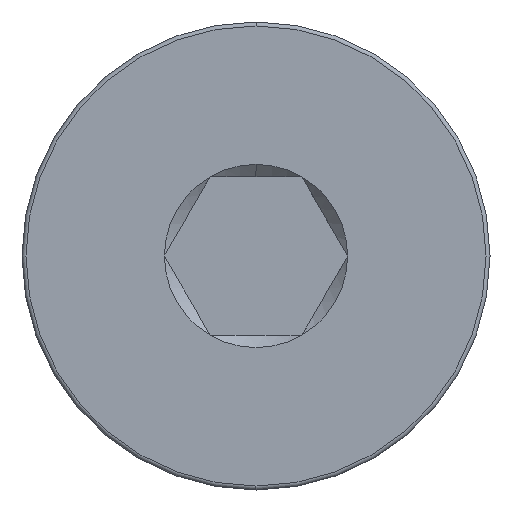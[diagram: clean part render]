
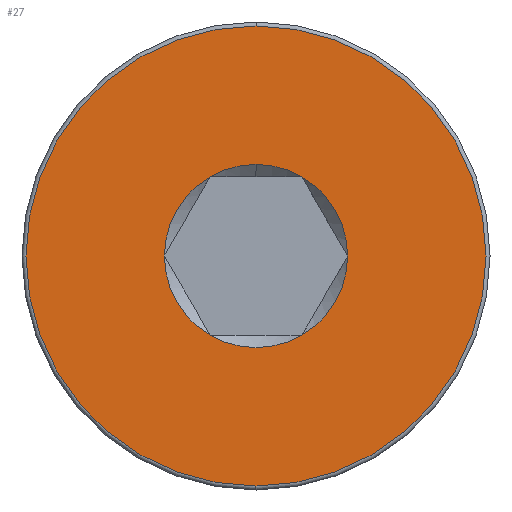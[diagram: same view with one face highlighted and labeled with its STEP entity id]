
A CAD part, left-side view. The second image highlights one B-rep face of the part: STEP entity #27.
In plain terms, the highlighted planar face has unit normal (-1, 0, 0).
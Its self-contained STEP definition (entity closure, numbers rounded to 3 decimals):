
#9 = CARTESIAN_POINT ( 'NONE',  ( 0., 0., 2.309 ) ) ;
#12 = CARTESIAN_POINT ( 'NONE',  ( 0., 0., 0. ) ) ;
#14 = EDGE_CURVE ( 'NONE', #258, #509, #249, .T. ) ;
#20 = CIRCLE ( 'NONE', #637, 5.8 ) ;
#27 = ADVANCED_FACE ( 'NONE', ( #351, #646 ), #84, .T. ) ;
#32 = CARTESIAN_POINT ( 'NONE',  ( 0., 0., 0. ) ) ;
#48 = AXIS2_PLACEMENT_3D ( 'NONE', #32, #583, #532 ) ;
#52 = EDGE_CURVE ( 'NONE', #487, #393, #610, .T. ) ;
#55 = DIRECTION ( 'NONE',  ( 0., 0., -1. ) ) ;
#64 = CARTESIAN_POINT ( 'NONE',  ( 0., -1.155, -2. ) ) ;
#71 = AXIS2_PLACEMENT_3D ( 'NONE', #787, #729, #102 ) ;
#73 = DIRECTION ( 'NONE',  ( 0., 0., -1. ) ) ;
#84 = PLANE ( 'NONE',  #274 ) ;
#85 = AXIS2_PLACEMENT_3D ( 'NONE', #528, #594, #478 ) ;
#102 = DIRECTION ( 'NONE',  ( 0., 0., -1. ) ) ;
#116 = ORIENTED_EDGE ( 'NONE', *, *, #158, .T. ) ;
#118 = ORIENTED_EDGE ( 'NONE', *, *, #336, .T. ) ;
#129 = DIRECTION ( 'NONE',  ( 0., 0., 1. ) ) ;
#142 = ORIENTED_EDGE ( 'NONE', *, *, #52, .T. ) ;
#157 = DIRECTION ( 'NONE',  ( 0., 0., 1. ) ) ;
#158 = EDGE_CURVE ( 'NONE', #371, #438, #199, .T. ) ;
#162 = AXIS2_PLACEMENT_3D ( 'NONE', #434, #428, #55 ) ;
#172 = DIRECTION ( 'NONE',  ( 1., 0., 0. ) ) ;
#179 = AXIS2_PLACEMENT_3D ( 'NONE', #452, #444, #687 ) ;
#199 = CIRCLE ( 'NONE', #162, 2.309 ) ;
#201 = CIRCLE ( 'NONE', #420, 2.309 ) ;
#215 = DIRECTION ( 'NONE',  ( -1., 0., 0. ) ) ;
#219 = DIRECTION ( 'NONE',  ( 0., 0., 1. ) ) ;
#249 = CIRCLE ( 'NONE', #85, 2.309 ) ;
#253 = ORIENTED_EDGE ( 'NONE', *, *, #512, .T. ) ;
#258 = VERTEX_POINT ( 'NONE', #64 ) ;
#266 = DIRECTION ( 'NONE',  ( -1., 0., 0. ) ) ;
#268 = CARTESIAN_POINT ( 'NONE',  ( 0., 0., 5.8 ) ) ;
#270 = VERTEX_POINT ( 'NONE', #268 ) ;
#274 = AXIS2_PLACEMENT_3D ( 'NONE', #717, #215, #157 ) ;
#329 = VERTEX_POINT ( 'NONE', #9 ) ;
#336 = EDGE_CURVE ( 'NONE', #438, #329, #564, .T. ) ;
#351 = FACE_OUTER_BOUND ( 'NONE', #753, .T. ) ;
#352 = CARTESIAN_POINT ( 'NONE',  ( 0., 0., 0. ) ) ;
#357 = DIRECTION ( 'NONE',  ( -1., 0., 0. ) ) ;
#368 = CIRCLE ( 'NONE', #384, 5.8 ) ;
#371 = VERTEX_POINT ( 'NONE', #634 ) ;
#376 = EDGE_CURVE ( 'NONE', #329, #487, #201, .T. ) ;
#378 = EDGE_CURVE ( 'NONE', #616, #270, #20, .T. ) ;
#384 = AXIS2_PLACEMENT_3D ( 'NONE', #352, #357, #219 ) ;
#393 = VERTEX_POINT ( 'NONE', #513 ) ;
#396 = ORIENTED_EDGE ( 'NONE', *, *, #378, .T. ) ;
#406 = CARTESIAN_POINT ( 'NONE',  ( 0., 1.155, 2. ) ) ;
#420 = AXIS2_PLACEMENT_3D ( 'NONE', #12, #691, #73 ) ;
#428 = DIRECTION ( 'NONE',  ( 1., 0., 0. ) ) ;
#434 = CARTESIAN_POINT ( 'NONE',  ( 0., 0., 0. ) ) ;
#438 = VERTEX_POINT ( 'NONE', #406 ) ;
#444 = DIRECTION ( 'NONE',  ( 1., 0., 0. ) ) ;
#448 = ORIENTED_EDGE ( 'NONE', *, *, #14, .T. ) ;
#452 = CARTESIAN_POINT ( 'NONE',  ( 0., 0., 0. ) ) ;
#478 = DIRECTION ( 'NONE',  ( 0., 0., -1. ) ) ;
#487 = VERTEX_POINT ( 'NONE', #582 ) ;
#489 = CARTESIAN_POINT ( 'NONE',  ( 0., 0., 0. ) ) ;
#509 = VERTEX_POINT ( 'NONE', #732 ) ;
#511 = EDGE_LOOP ( 'NONE', ( #116, #118, #745, #142, #253, #448, #619 ) ) ;
#512 = EDGE_CURVE ( 'NONE', #393, #258, #771, .T. ) ;
#513 = CARTESIAN_POINT ( 'NONE',  ( 0., -2.309, 0. ) ) ;
#528 = CARTESIAN_POINT ( 'NONE',  ( 0., 0., 0. ) ) ;
#532 = DIRECTION ( 'NONE',  ( 0., 0., -1. ) ) ;
#539 = CARTESIAN_POINT ( 'NONE',  ( 0., 0., -5.8 ) ) ;
#551 = EDGE_CURVE ( 'NONE', #509, #371, #696, .T. ) ;
#563 = ORIENTED_EDGE ( 'NONE', *, *, #682, .T. ) ;
#564 = CIRCLE ( 'NONE', #179, 2.309 ) ;
#571 = AXIS2_PLACEMENT_3D ( 'NONE', #489, #172, #791 ) ;
#582 = CARTESIAN_POINT ( 'NONE',  ( 0., -1.155, 2. ) ) ;
#583 = DIRECTION ( 'NONE',  ( 1., 0., 0. ) ) ;
#594 = DIRECTION ( 'NONE',  ( 1., 0., 0. ) ) ;
#610 = CIRCLE ( 'NONE', #48, 2.309 ) ;
#616 = VERTEX_POINT ( 'NONE', #539 ) ;
#619 = ORIENTED_EDGE ( 'NONE', *, *, #551, .T. ) ;
#634 = CARTESIAN_POINT ( 'NONE',  ( 0., 2.309, 0. ) ) ;
#637 = AXIS2_PLACEMENT_3D ( 'NONE', #684, #266, #129 ) ;
#646 = FACE_BOUND ( 'NONE', #511, .T. ) ;
#682 = EDGE_CURVE ( 'NONE', #270, #616, #368, .T. ) ;
#684 = CARTESIAN_POINT ( 'NONE',  ( 0., 0., 0. ) ) ;
#687 = DIRECTION ( 'NONE',  ( 0., 0., -1. ) ) ;
#691 = DIRECTION ( 'NONE',  ( 1., 0., 0. ) ) ;
#696 = CIRCLE ( 'NONE', #71, 2.309 ) ;
#717 = CARTESIAN_POINT ( 'NONE',  ( 0., 0., 0. ) ) ;
#729 = DIRECTION ( 'NONE',  ( 1., 0., 0. ) ) ;
#732 = CARTESIAN_POINT ( 'NONE',  ( 0., 1.155, -2. ) ) ;
#745 = ORIENTED_EDGE ( 'NONE', *, *, #376, .T. ) ;
#753 = EDGE_LOOP ( 'NONE', ( #563, #396 ) ) ;
#771 = CIRCLE ( 'NONE', #571, 2.309 ) ;
#787 = CARTESIAN_POINT ( 'NONE',  ( 0., 0., 0. ) ) ;
#791 = DIRECTION ( 'NONE',  ( 0., 0., -1. ) ) ;
